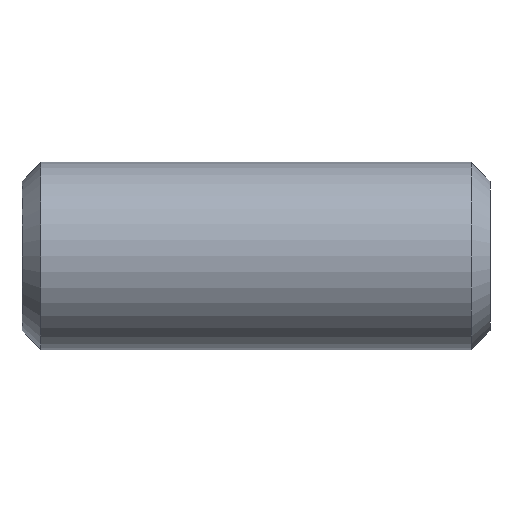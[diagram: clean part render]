
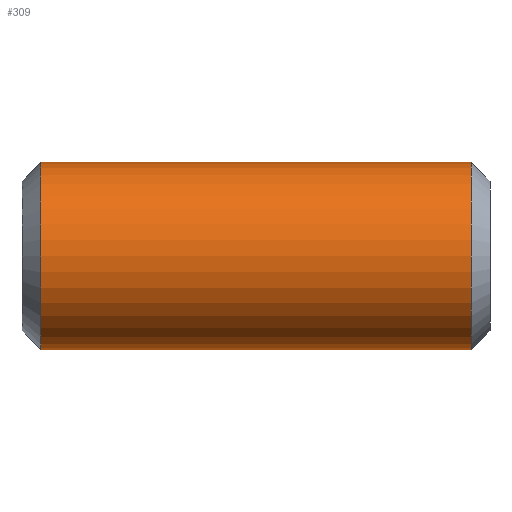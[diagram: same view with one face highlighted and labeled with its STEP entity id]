
A CAD part, left-side view. The second image highlights one B-rep face of the part: STEP entity #309.
In plain terms, the highlighted cylindrical face has radius 4 mm (diameter 8 mm), a full revolution.
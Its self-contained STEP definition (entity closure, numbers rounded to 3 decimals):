
#21=CYLINDRICAL_SURFACE('',#346,4.);
#84=ORIENTED_EDGE('',*,*,#159,.F.);
#85=ORIENTED_EDGE('',*,*,#158,.T.);
#158=EDGE_CURVE('',#196,#196,#217,.T.);
#159=EDGE_CURVE('',#197,#197,#218,.T.);
#196=VERTEX_POINT('',#494);
#197=VERTEX_POINT('',#497);
#217=CIRCLE('',#345,4.);
#218=CIRCLE('',#347,4.);
#234=EDGE_LOOP('',(#84));
#235=EDGE_LOOP('',(#85));
#264=FACE_BOUND('',#234,.T.);
#265=FACE_BOUND('',#235,.T.);
#309=ADVANCED_FACE('',(#264,#265),#21,.T.);
#345=AXIS2_PLACEMENT_3D('',#493,#392,#393);
#346=AXIS2_PLACEMENT_3D('',#495,#394,#395);
#347=AXIS2_PLACEMENT_3D('',#496,#396,#397);
#392=DIRECTION('',(0.,-1.,0.));
#393=DIRECTION('',(0.,0.,-1.));
#394=DIRECTION('',(0.,-1.,0.));
#395=DIRECTION('',(0.,0.,-1.));
#396=DIRECTION('',(0.,-1.,0.));
#397=DIRECTION('',(0.,0.,-1.));
#493=CARTESIAN_POINT('',(0.,19.2,0.));
#494=CARTESIAN_POINT('',(0.,19.2,-4.));
#495=CARTESIAN_POINT('',(0.,0.,0.));
#496=CARTESIAN_POINT('',(0.,0.8,0.));
#497=CARTESIAN_POINT('',(0.,0.8,-4.));
